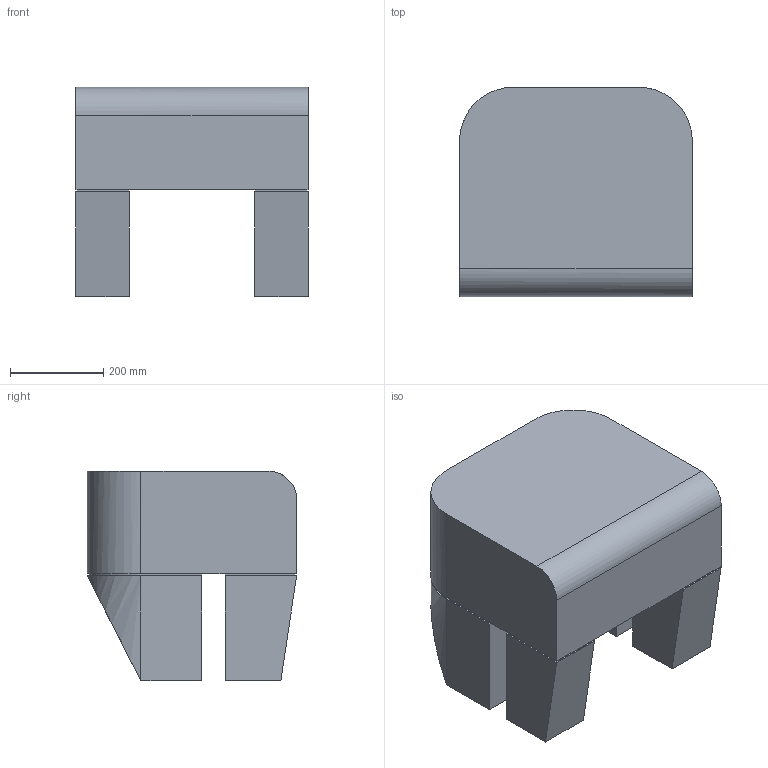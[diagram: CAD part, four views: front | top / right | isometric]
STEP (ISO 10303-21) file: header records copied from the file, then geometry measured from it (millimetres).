
FILE_DESCRIPTION(/* description */ (''),/* implementation_level */ '2;1');
FILE_NAME(/* name */ 'Sclup',/* time_stamp */ '2020-03-02T14:54:25+01:00',/* author */ (''),/* organization */ (''),/* preprocessor_version */ 'ST-DEVELOPER v15',/* originating_system */ '',/* authorisation */ '');
FILE_SCHEMA (('AUTOMOTIVE_DESIGN'));
Length unit declared in the file: millimetre
Products named in the file (1): Document
Bounding box: 500 x 450 x 450 mm (x, y, z)
Volume: 64872098.2 mm3; surface area: 1308904.6 mm2
Topology: 1 solids, 1 shells, 73 faces, 164 edges, 94 vertices
Faces by surface type: plane 66, bspline 7
Entity records: 1719 total; most frequent: CARTESIAN_POINT 568, ORIENTED_EDGE 326, EDGE_CURVE 163, B_SPLINE_CURVE_WITH_KNOTS 148, VERTEX_POINT 92, ADVANCED_FACE 73, FACE_OUTER_BOUND 73, EDGE_LOOP 73
